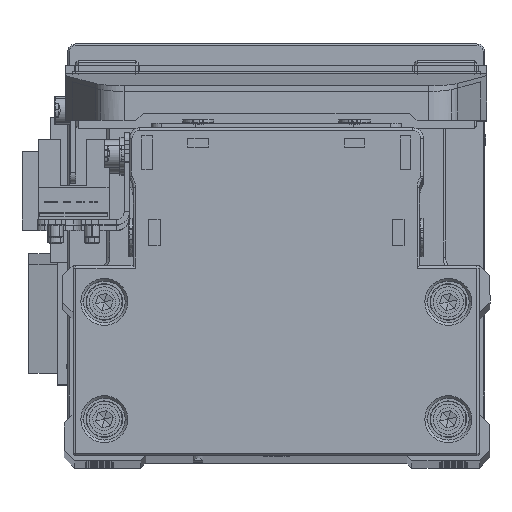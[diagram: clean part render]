
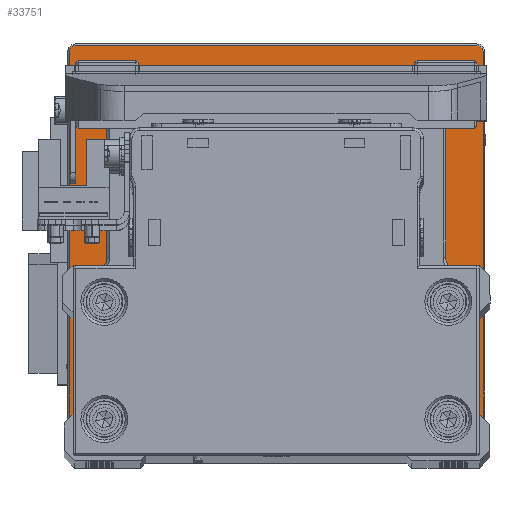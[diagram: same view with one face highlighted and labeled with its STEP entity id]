
A CAD part, top view. The second image highlights one B-rep face of the part: STEP entity #33751.
In plain terms, the highlighted planar face has unit normal (0, 0, 1) as drawn and (0, 1, 0) by its records, which use the part's own axes.
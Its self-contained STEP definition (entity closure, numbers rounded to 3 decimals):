
#76 = DIRECTION ( 'NONE',  ( 0., 1., 0. ) ) ;
#800 = CARTESIAN_POINT ( 'NONE',  ( 0., 12., -20.5 ) ) ;
#1987 = ORIENTED_EDGE ( 'NONE', *, *, #2468, .T. ) ;
#2468 = EDGE_CURVE ( 'NONE', #23300, #34911, #13113, .T. ) ;
#2995 = AXIS2_PLACEMENT_3D ( 'NONE', #20046, #32332, #4805 ) ;
#3422 = CIRCLE ( 'NONE', #25877, 1.2 ) ;
#3424 = DIRECTION ( 'NONE',  ( 0., 1., 0. ) ) ;
#3494 = LINE ( 'NONE', #15741, #17238 ) ;
#4441 = CARTESIAN_POINT ( 'NONE',  ( -38.5, 12., -39.7 ) ) ;
#4729 = DIRECTION ( 'NONE',  ( 0., 1., 0. ) ) ;
#4805 = DIRECTION ( 'NONE',  ( 0., 0., 1. ) ) ;
#5778 = LINE ( 'NONE', #18022, #8641 ) ;
#6089 = LINE ( 'NONE', #18324, #24486 ) ;
#6452 = VERTEX_POINT ( 'NONE', #39629 ) ;
#6963 = CARTESIAN_POINT ( 'NONE',  ( -39.7, 12., -38.5 ) ) ;
#7219 = AXIS2_PLACEMENT_3D ( 'NONE', #30939, #3424, #15672 ) ;
#7740 = CARTESIAN_POINT ( 'NONE',  ( 38.5, 12., -39.7 ) ) ;
#8390 = CIRCLE ( 'NONE', #13533, 1.2 ) ;
#8641 = VECTOR ( 'NONE', #30292, 1000. ) ;
#8678 = EDGE_CURVE ( 'NONE', #17968, #14606, #6089, .T. ) ;
#10023 = VERTEX_POINT ( 'NONE', #36477 ) ;
#10249 = AXIS2_PLACEMENT_3D ( 'NONE', #39572, #12037, #24828 ) ;
#10281 = AXIS2_PLACEMENT_3D ( 'NONE', #13415, #25660, #37928 ) ;
#10463 = ORIENTED_EDGE ( 'NONE', *, *, #14214, .T. ) ;
#10505 = EDGE_CURVE ( 'NONE', #10023, #23300, #24513, .T. ) ;
#10525 = ORIENTED_EDGE ( 'NONE', *, *, #23325, .T. ) ;
#10969 = VERTEX_POINT ( 'NONE', #37325 ) ;
#11652 = CARTESIAN_POINT ( 'NONE',  ( 0., 12., 0. ) ) ;
#12037 = DIRECTION ( 'NONE',  ( 0., 1., 0. ) ) ;
#12072 = EDGE_CURVE ( 'NONE', #28462, #17968, #27591, .T. ) ;
#12326 = DIRECTION ( 'NONE',  ( 0., 0., -1. ) ) ;
#12368 = ORIENTED_EDGE ( 'NONE', *, *, #37638, .F. ) ;
#13112 = ORIENTED_EDGE ( 'NONE', *, *, #19367, .F. ) ;
#13113 = LINE ( 'NONE', #25353, #33670 ) ;
#13415 = CARTESIAN_POINT ( 'NONE',  ( -38.5, 12., 38.5 ) ) ;
#13533 = AXIS2_PLACEMENT_3D ( 'NONE', #32251, #4729, #16978 ) ;
#14214 = EDGE_CURVE ( 'NONE', #14606, #10969, #3422, .T. ) ;
#14606 = VERTEX_POINT ( 'NONE', #30168 ) ;
#14672 = FACE_OUTER_BOUND ( 'NONE', #22415, .T. ) ;
#15192 = CIRCLE ( 'NONE', #2995, 20.5 ) ;
#15672 = DIRECTION ( 'NONE',  ( 0., 0., -1. ) ) ;
#15741 = CARTESIAN_POINT ( 'NONE',  ( -39.7, 12., 0. ) ) ;
#16978 = DIRECTION ( 'NONE',  ( 0., 0., -1. ) ) ;
#17238 = VECTOR ( 'NONE', #28007, 1000. ) ;
#17968 = VERTEX_POINT ( 'NONE', #20247 ) ;
#18022 = CARTESIAN_POINT ( 'NONE',  ( 39.7, 12., 0. ) ) ;
#18324 = CARTESIAN_POINT ( 'NONE',  ( 0., 12., 39.7 ) ) ;
#18347 = VERTEX_POINT ( 'NONE', #6963 ) ;
#19367 = EDGE_CURVE ( 'NONE', #26180, #6452, #15192, .T. ) ;
#20046 = CARTESIAN_POINT ( 'NONE',  ( 0., 12., 0. ) ) ;
#20247 = CARTESIAN_POINT ( 'NONE',  ( -38.5, 12., 39.7 ) ) ;
#20264 = ORIENTED_EDGE ( 'NONE', *, *, #12072, .T. ) ;
#22415 = EDGE_LOOP ( 'NONE', ( #38224, #1987, #10525, #22603, #20264, #23579, #10463, #25040 ) ) ;
#22603 = ORIENTED_EDGE ( 'NONE', *, *, #38136, .T. ) ;
#23300 = VERTEX_POINT ( 'NONE', #7740 ) ;
#23325 = EDGE_CURVE ( 'NONE', #34911, #18347, #8390, .T. ) ;
#23579 = ORIENTED_EDGE ( 'NONE', *, *, #8678, .T. ) ;
#23884 = DIRECTION ( 'NONE',  ( 0., -1., 0. ) ) ;
#24486 = VECTOR ( 'NONE', #30584, 1000. ) ;
#24513 = CIRCLE ( 'NONE', #7219, 1.2 ) ;
#24828 = DIRECTION ( 'NONE',  ( 0., 0., 1. ) ) ;
#25040 = ORIENTED_EDGE ( 'NONE', *, *, #31578, .T. ) ;
#25353 = CARTESIAN_POINT ( 'NONE',  ( 0., 12., -39.7 ) ) ;
#25660 = DIRECTION ( 'NONE',  ( 0., 1., 0. ) ) ;
#25877 = AXIS2_PLACEMENT_3D ( 'NONE', #27593, #76, #12326 ) ;
#26180 = VERTEX_POINT ( 'NONE', #800 ) ;
#26918 = FACE_BOUND ( 'NONE', #32961, .T. ) ;
#27565 = CIRCLE ( 'NONE', #10249, 20.5 ) ;
#27591 = CIRCLE ( 'NONE', #10281, 1.2 ) ;
#27593 = CARTESIAN_POINT ( 'NONE',  ( 38.5, 12., 38.5 ) ) ;
#28007 = DIRECTION ( 'NONE',  ( 0., 0., 1. ) ) ;
#28462 = VERTEX_POINT ( 'NONE', #32689 ) ;
#30168 = CARTESIAN_POINT ( 'NONE',  ( 38.5, 12., 39.7 ) ) ;
#30292 = DIRECTION ( 'NONE',  ( 0., 0., -1. ) ) ;
#30584 = DIRECTION ( 'NONE',  ( 1., 0., 0. ) ) ;
#30939 = CARTESIAN_POINT ( 'NONE',  ( 38.5, 12., -38.5 ) ) ;
#31578 = EDGE_CURVE ( 'NONE', #10969, #10023, #5778, .T. ) ;
#32251 = CARTESIAN_POINT ( 'NONE',  ( -38.5, 12., -38.5 ) ) ;
#32332 = DIRECTION ( 'NONE',  ( 0., 1., 0. ) ) ;
#32689 = CARTESIAN_POINT ( 'NONE',  ( -39.7, 12., 38.5 ) ) ;
#32961 = EDGE_LOOP ( 'NONE', ( #12368, #13112 ) ) ;
#33670 = VECTOR ( 'NONE', #37621, 1000. ) ;
#33751 = ADVANCED_FACE ( 'NONE', ( #14672, #26918 ), #39184, .F. ) ;
#34911 = VERTEX_POINT ( 'NONE', #4441 ) ;
#35982 = AXIS2_PLACEMENT_3D ( 'NONE', #11652, #23884, #36171 ) ;
#36171 = DIRECTION ( 'NONE',  ( 0., 0., -1. ) ) ;
#36477 = CARTESIAN_POINT ( 'NONE',  ( 39.7, 12., -38.5 ) ) ;
#37325 = CARTESIAN_POINT ( 'NONE',  ( 39.7, 12., 38.5 ) ) ;
#37621 = DIRECTION ( 'NONE',  ( -1., 0., 0. ) ) ;
#37638 = EDGE_CURVE ( 'NONE', #6452, #26180, #27565, .T. ) ;
#37928 = DIRECTION ( 'NONE',  ( 0., 0., -1. ) ) ;
#38136 = EDGE_CURVE ( 'NONE', #18347, #28462, #3494, .T. ) ;
#38224 = ORIENTED_EDGE ( 'NONE', *, *, #10505, .T. ) ;
#39184 = PLANE ( 'NONE',  #35982 ) ;
#39572 = CARTESIAN_POINT ( 'NONE',  ( 0., 12., 0. ) ) ;
#39629 = CARTESIAN_POINT ( 'NONE',  ( 0., 12., 20.5 ) ) ;
